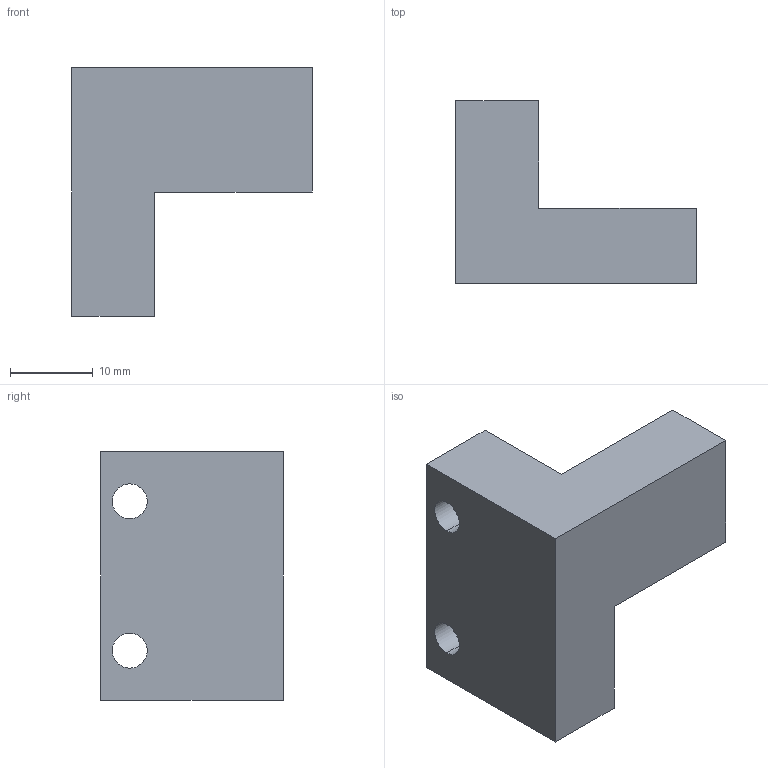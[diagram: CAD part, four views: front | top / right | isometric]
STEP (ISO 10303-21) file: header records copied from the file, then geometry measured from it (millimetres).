
FILE_DESCRIPTION (( 'STEP AP203' ), '1' );
FILE_NAME ('CHU 16 DOIGT DROIT.STEP', '2012-12-14T10:17:05', ( '' ), ( '' ), 'SwSTEP 2.0', 'SolidWorks 2010', '' );
FILE_SCHEMA (( 'CONFIG_CONTROL_DESIGN' ));
Length unit declared in the file: millimetre
Products named in the file (1): CHU 16 DOIGT DROIT
Bounding box: 29 x 22 x 30 mm (x, y, z)
Volume: 8887.9 mm3; surface area: 3480.5 mm2
Topology: 1 solids, 1 shells, 13 faces, 33 edges, 22 vertices
Faces by surface type: plane 9, cylinder 4
Entity records: 480 total; most frequent: DIRECTION 69, CARTESIAN_POINT 69, ORIENTED_EDGE 66, EDGE_CURVE 33, LINE 25, VECTOR 25, VERTEX_POINT 22, AXIS2_PLACEMENT_3D 22
